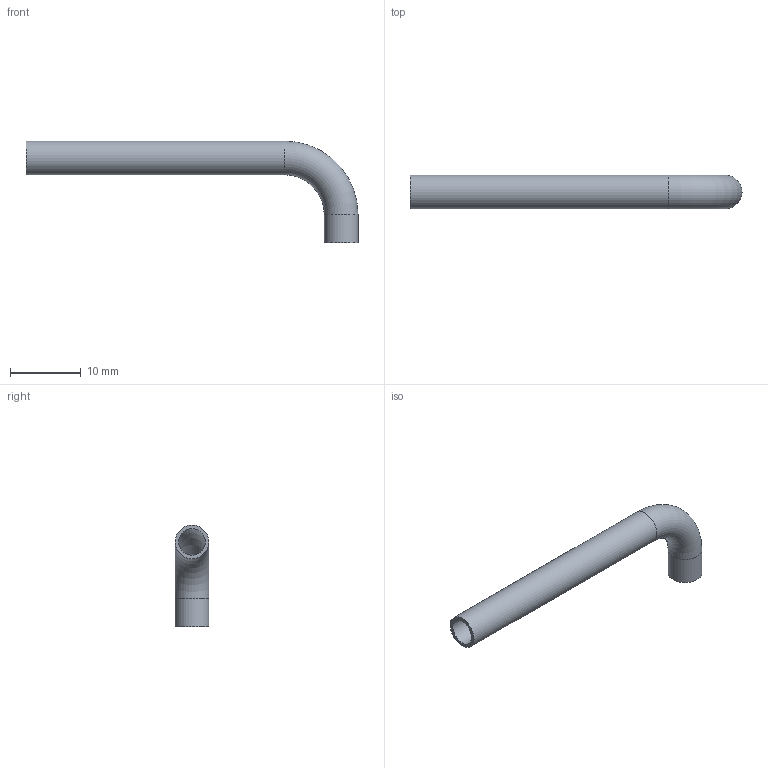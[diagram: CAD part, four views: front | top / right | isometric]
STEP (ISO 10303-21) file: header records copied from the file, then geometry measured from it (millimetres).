
FILE_DESCRIPTION(('Open CASCADE Model'),'2;1');
FILE_NAME('Open CASCADE Shape Model','2026-10-21T10:33:18',('Author'),( 'Open CASCADE'),'Open CASCADE STEP processor 7.9','Open CASCADE 7.9' ,'Unknown');
FILE_SCHEMA(('AUTOMOTIVE_DESIGN { 1 0 10303 214 1 1 1 1 }'));
Length unit declared in the file: millimetre
Products named in the file (1): Open CASCADE STEP translator 7.9 21
Bounding box: 46.88 x 4.76 x 14.38 mm (x, y, z)
Volume: 361.4 mm3; surface area: 1430.7 mm2
Topology: 1 solids, 1 shells, 8 faces, 14 edges, 8 vertices
Faces by surface type: cylinder 4, plane 2, torus 2
Full cylindrical faces by diameter (mm): 3.74 x2, 4.76 x2
Entity records: 382 total; most frequent: CARTESIAN_POINT 69, DIRECTION 60, ORIENTED_EDGE 28, PCURVE 28, DEFINITIONAL_REPRESENTATION 28, AXIS2_PLACEMENT_3D 19, LINE 18, VECTOR 18
